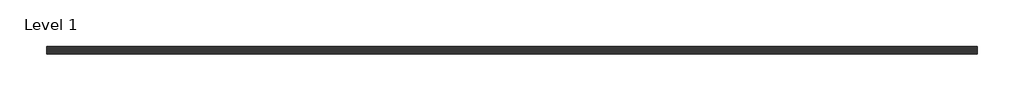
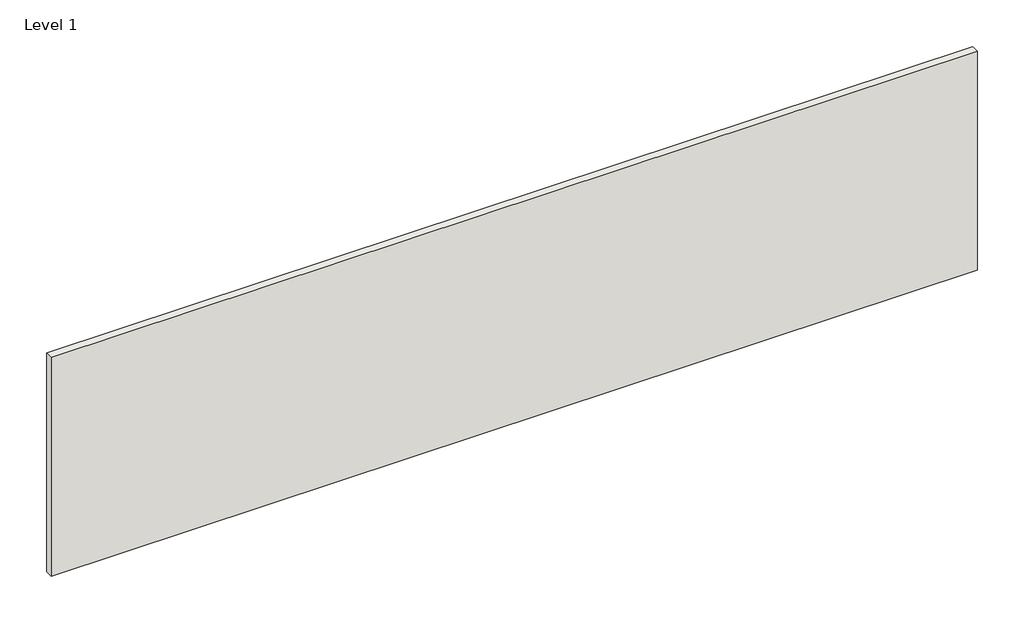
# One storey: 1 wall.
"""IFC4 building model written with IfcOpenShell, lengths in millimetres."""

from ifc_helpers import new_model, si_unit, origin, origin_with_axes, place, context, project, spatial, polyline, outline, extrude, element, save

model = new_model("IFC4")

# Units and contexts
model_context = context("Model", 3, world=origin())
ifc_project = project(units=[si_unit("LENGTHUNIT", "METRE", prefix="MILLI")], contexts=[model_context])

# Site, building, storey
site = spatial("IfcSite", under=ifc_project)
building = spatial("IfcBuilding", under=site)
storey = spatial("IfcBuildingStorey", under=building, Name="Level 1", Elevation=0.0)

# Wall
placement = place(None, origin())
element("IfcWall", 1, ObjectType="Wienerberger-DTBD-Marziale", at=placement, inside=storey, context=model_context, shape_type="SweptSolid", body=[
    extrude(outline(polyline([(-24278.7225962, 2610.875), (-36278.7225962, 2610.875), (-36278.7225962, 2712.875), (-24278.7225962, 2712.875), (-24278.7225962, 2610.875)])), origin_with_axes(), (0.0, 0.0, 1.0), 3000.0),
])

save(model, "model.ifc")
